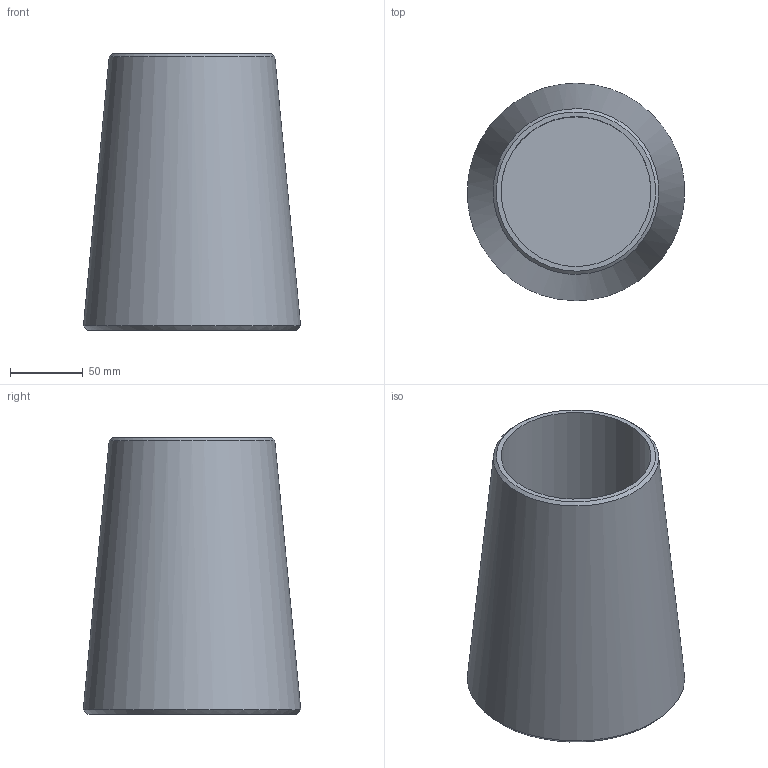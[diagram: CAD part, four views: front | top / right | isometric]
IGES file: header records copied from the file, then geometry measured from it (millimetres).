
Global section: file name: 520-100-KMU; native system: Autodesk Inventor 2016; preprocessor: unknown; author: BAYR; date: 20200618.123757; units: millimetre
Bounding box: 149.17 x 149.42 x 190 mm (x, y, z)
Volume: 1436347.3 mm3; surface area: 150790 mm2
Topology: 1 solids, 1 shells, 7 faces, 14 edges, 10 vertices
Faces by surface type: bspline 7
